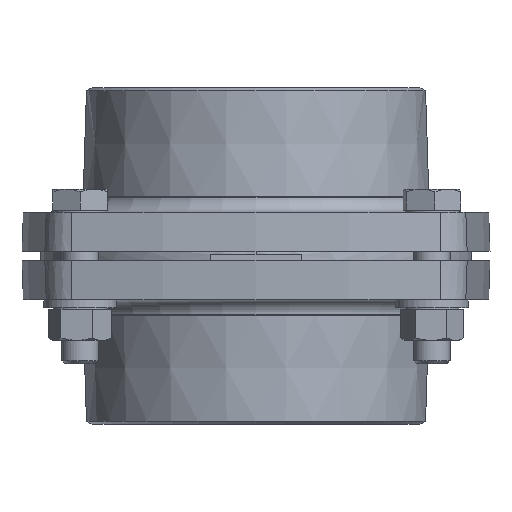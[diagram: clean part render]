
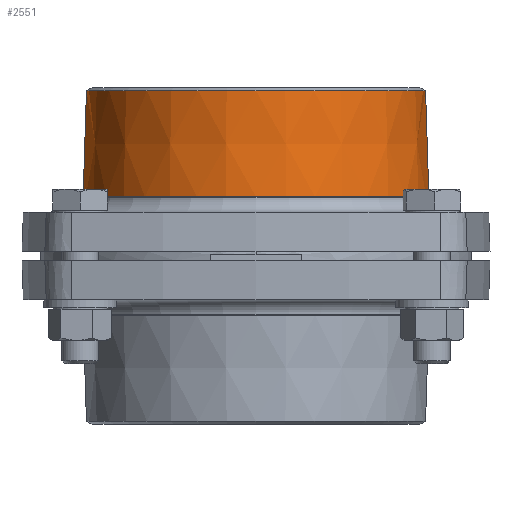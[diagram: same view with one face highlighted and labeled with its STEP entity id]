
A CAD part, front view. The second image highlights one B-rep face of the part: STEP entity #2551.
In plain terms, the highlighted conical face has half-angle 1.788 degrees and reference radius 56.991 mm.
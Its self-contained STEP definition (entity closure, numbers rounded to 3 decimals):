
#1129 = ORIENTED_EDGE ( 'NONE', *, *, #11568, .F. ) ;
#1130 = ORIENTED_EDGE ( 'NONE', *, *, #15968, .T. ) ;
#1131 = ORIENTED_EDGE ( 'NONE', *, *, #11566, .T. ) ;
#1132 = ORIENTED_EDGE ( 'NONE', *, *, #15969, .F. ) ;
#2551 = ADVANCED_FACE ( 'NONE', ( #9671 ), #9679, .T. ) ;
#5068 = AXIS2_PLACEMENT_3D ( 'NONE', #10831, #10832, #10833 ) ;
#5069 = AXIS2_PLACEMENT_3D ( 'NONE', #10836, #10837, #10838 ) ;
#9671 = FACE_OUTER_BOUND ( 'NONE', #13708, .T. ) ;
#9679 = CONICAL_SURFACE ( 'NONE', #11117, 56.991, 0.031 ) ;
#9815 = LINE ( 'NONE', #14035, #9817 ) ;
#9816 = LINE ( 'NONE', #14051, #9820 ) ;
#9817 = VECTOR ( 'NONE', #14042, 1000. ) ;
#9820 = VECTOR ( 'NONE', #14049, 1000. ) ;
#10731 = CARTESIAN_POINT ( 'NONE',  ( 28.088, 14.557, 30.786 ) ) ;
#10733 = CARTESIAN_POINT ( 'NONE',  ( -83.708, 14.557, 30.786 ) ) ;
#10735 = CARTESIAN_POINT ( 'NONE',  ( -84.801, 14.557, -4.215 ) ) ;
#10737 = CARTESIAN_POINT ( 'NONE',  ( 29.181, 14.557, -4.215 ) ) ;
#10831 = CARTESIAN_POINT ( 'NONE',  ( -27.81, 14.557, 30.786 ) ) ;
#10832 = DIRECTION ( 'NONE',  ( 0., 0., -1. ) ) ;
#10833 = DIRECTION ( 'NONE',  ( 1., 0., 0. ) ) ;
#10836 = CARTESIAN_POINT ( 'NONE',  ( -27.81, 14.557, -4.215 ) ) ;
#10837 = DIRECTION ( 'NONE',  ( 0., 0., -1. ) ) ;
#10838 = DIRECTION ( 'NONE',  ( -1., 0., 0. ) ) ;
#11117 = AXIS2_PLACEMENT_3D ( 'NONE', #15271, #15260, #15279 ) ;
#11566 = EDGE_CURVE ( 'NONE', #13684, #13686, #9815, .T. ) ;
#11568 = EDGE_CURVE ( 'NONE', #13682, #13688, #9816, .T. ) ;
#13682 = VERTEX_POINT ( 'NONE', #10731 ) ;
#13684 = VERTEX_POINT ( 'NONE', #10733 ) ;
#13686 = VERTEX_POINT ( 'NONE', #10735 ) ;
#13688 = VERTEX_POINT ( 'NONE', #10737 ) ;
#13708 = EDGE_LOOP ( 'NONE', ( #1129, #1130, #1131, #1132 ) ) ;
#14035 = CARTESIAN_POINT ( 'NONE',  ( -84.801, 14.557, -4.215 ) ) ;
#14042 = DIRECTION ( 'NONE',  ( -0.031, 0., -1. ) ) ;
#14049 = DIRECTION ( 'NONE',  ( 0.031, 0., -1. ) ) ;
#14051 = CARTESIAN_POINT ( 'NONE',  ( 29.181, 14.557, -4.215 ) ) ;
#15036 = CIRCLE ( 'NONE', #5068, 55.898 ) ;
#15037 = CIRCLE ( 'NONE', #5069, 56.991 ) ;
#15260 = DIRECTION ( 'NONE',  ( 0., 0., -1. ) ) ;
#15271 = CARTESIAN_POINT ( 'NONE',  ( -27.81, 14.557, -4.215 ) ) ;
#15279 = DIRECTION ( 'NONE',  ( -1., 0., 0. ) ) ;
#15968 = EDGE_CURVE ( 'NONE', #13682, #13684, #15036, .T. ) ;
#15969 = EDGE_CURVE ( 'NONE', #13688, #13686, #15037, .T. ) ;
